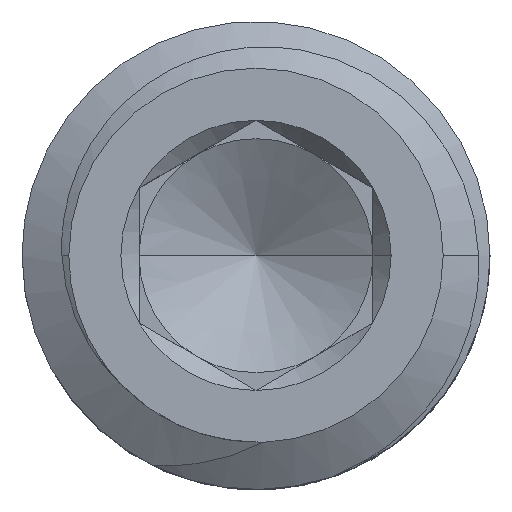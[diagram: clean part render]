
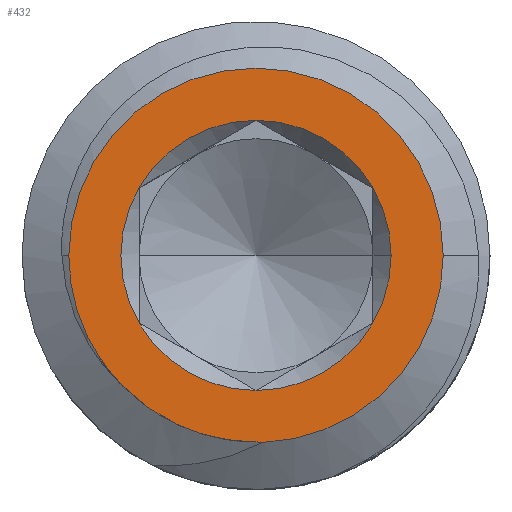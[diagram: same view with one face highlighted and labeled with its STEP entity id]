
A CAD part, top view. The second image highlights one B-rep face of the part: STEP entity #432.
In plain terms, the highlighted planar face has unit normal (0, 0, 1).
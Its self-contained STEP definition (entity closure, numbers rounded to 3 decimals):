
#36 = CIRCLE ( 'NONE', #2354, 3.2 ) ;
#42 = CIRCLE ( 'NONE', #2288, 2.309 ) ;
#48 = CIRCLE ( 'NONE', #2331, 3.2 ) ;
#49 = CIRCLE ( 'NONE', #2302, 2.309 ) ;
#51 = CIRCLE ( 'NONE', #2299, 2.309 ) ;
#53 = CIRCLE ( 'NONE', #2350, 2.309 ) ;
#56 = CIRCLE ( 'NONE', #2355, 2.309 ) ;
#59 = CIRCLE ( 'NONE', #2294, 2.309 ) ;
#74 = CIRCLE ( 'NONE', #2305, 2.309 ) ;
#81 = ORIENTED_EDGE ( 'NONE', *, *, #2264, .T. ) ;
#92 = ORIENTED_EDGE ( 'NONE', *, *, #2257, .F. ) ;
#100 = ORIENTED_EDGE ( 'NONE', *, *, #2237, .F. ) ;
#134 = ORIENTED_EDGE ( 'NONE', *, *, #2254, .T. ) ;
#153 = ORIENTED_EDGE ( 'NONE', *, *, #2263, .F. ) ;
#167 = ORIENTED_EDGE ( 'NONE', *, *, #2265, .F. ) ;
#168 = ORIENTED_EDGE ( 'NONE', *, *, #2220, .F. ) ;
#170 = ORIENTED_EDGE ( 'NONE', *, *, #2346, .F. ) ;
#174 = ORIENTED_EDGE ( 'NONE', *, *, #2261, .F. ) ;
#200 = FACE_OUTER_BOUND ( 'NONE', #424, .T. ) ;
#302 = CIRCLE ( 'NONE', #2280, 3.2 ) ;
#385 = FACE_BOUND ( 'NONE', #431, .T. ) ;
#394 = ORIENTED_EDGE ( 'NONE', *, *, #2251, .F. ) ;
#417 = ORIENTED_EDGE ( 'NONE', *, *, #2260, .F. ) ;
#424 = EDGE_LOOP ( 'NONE', ( #81, #134, #167, #168, #170, #528 ) ) ;
#431 = EDGE_LOOP ( 'NONE', ( #92, #497, #417, #100, #174, #153, #394 ) ) ;
#432 = ADVANCED_FACE ( 'NONE', ( #385, #200 ), #1720, .T. ) ;
#497 = ORIENTED_EDGE ( 'NONE', *, *, #2311, .F. ) ;
#528 = ORIENTED_EDGE ( 'NONE', *, *, #2249, .T. ) ;
#651 = CARTESIAN_POINT ( 'NONE',  ( 0., -2.309, 5. ) ) ;
#653 = CARTESIAN_POINT ( 'NONE',  ( -2.254, -2.254, 5. ) ) ;
#654 = CARTESIAN_POINT ( 'NONE',  ( -2.343, -2.179, 5. ) ) ;
#661 = CARTESIAN_POINT ( 'NONE',  ( 2.309, 0., 5. ) ) ;
#663 = CARTESIAN_POINT ( 'NONE',  ( 2., -1.155, 5. ) ) ;
#740 = CARTESIAN_POINT ( 'NONE',  ( 0.116, -3.198, 5. ) ) ;
#745 = CARTESIAN_POINT ( 'NONE',  ( -3.2, 0., 5. ) ) ;
#746 = CARTESIAN_POINT ( 'NONE',  ( 3.2, 0., 5. ) ) ;
#751 = CARTESIAN_POINT ( 'NONE',  ( 0., 2.309, 5. ) ) ;
#752 = CARTESIAN_POINT ( 'NONE',  ( 0., -3.188, 5. ) ) ;
#761 = CARTESIAN_POINT ( 'NONE',  ( -2., -1.155, 5. ) ) ;
#928 = DIRECTION ( 'NONE',  ( 1., 0., 0. ) ) ;
#937 = DIRECTION ( 'NONE',  ( 0., 0., 1. ) ) ;
#1111 = CARTESIAN_POINT ( 'NONE',  ( 0., 0., 5. ) ) ;
#1388 = CARTESIAN_POINT ( 'NONE',  ( 2., 1.155, 5. ) ) ;
#1396 = CARTESIAN_POINT ( 'NONE',  ( -2., 1.155, 5. ) ) ;
#1463 = DIRECTION ( 'NONE',  ( -1., 0., 0. ) ) ;
#1466 = DIRECTION ( 'NONE',  ( 0., 0., -1. ) ) ;
#1626 = VERTEX_POINT ( 'NONE', #661 ) ;
#1653 = VERTEX_POINT ( 'NONE', #651 ) ;
#1655 = VERTEX_POINT ( 'NONE', #663 ) ;
#1657 = VERTEX_POINT ( 'NONE', #653 ) ;
#1663 = VERTEX_POINT ( 'NONE', #654 ) ;
#1668 = VERTEX_POINT ( 'NONE', #752 ) ;
#1672 = VERTEX_POINT ( 'NONE', #761 ) ;
#1686 = VERTEX_POINT ( 'NONE', #751 ) ;
#1720 = PLANE ( 'NONE',  #2273 ) ;
#1924 = VERTEX_POINT ( 'NONE', #1388 ) ;
#1965 = VERTEX_POINT ( 'NONE', #1396 ) ;
#1972 = VERTEX_POINT ( 'NONE', #740 ) ;
#2034 = CARTESIAN_POINT ( 'NONE',  ( 0., 0., 5. ) ) ;
#2097 = VERTEX_POINT ( 'NONE', #746 ) ;
#2104 = VERTEX_POINT ( 'NONE', #745 ) ;
#2220 = EDGE_CURVE ( 'NONE', #2104, #2097, #302, .T. ) ;
#2237 = EDGE_CURVE ( 'NONE', #1653, #1655, #74, .T. ) ;
#2249 = EDGE_CURVE ( 'NONE', #1663, #1657, #2691, .T. ) ;
#2251 = EDGE_CURVE ( 'NONE', #1686, #1965, #59, .T. ) ;
#2254 = EDGE_CURVE ( 'NONE', #1668, #1972, #2696, .T. ) ;
#2257 = EDGE_CURVE ( 'NONE', #1924, #1686, #56, .T. ) ;
#2260 = EDGE_CURVE ( 'NONE', #1655, #1626, #53, .T. ) ;
#2261 = EDGE_CURVE ( 'NONE', #1672, #1653, #51, .T. ) ;
#2263 = EDGE_CURVE ( 'NONE', #1965, #1672, #49, .T. ) ;
#2264 = EDGE_CURVE ( 'NONE', #1657, #1668, #2681, .T. ) ;
#2265 = EDGE_CURVE ( 'NONE', #2097, #1972, #48, .T. ) ;
#2273 = AXIS2_PLACEMENT_3D ( 'NONE', #2034, #937, #928 ) ;
#2280 = AXIS2_PLACEMENT_3D ( 'NONE', #1111, #1466, #1463 ) ;
#2288 = AXIS2_PLACEMENT_3D ( 'NONE', #2453, #2445, #2444 ) ;
#2294 = AXIS2_PLACEMENT_3D ( 'NONE', #2544, #2536, #2535 ) ;
#2299 = AXIS2_PLACEMENT_3D ( 'NONE', #2495, #2494, #2493 ) ;
#2302 = AXIS2_PLACEMENT_3D ( 'NONE', #2478, #2476, #2475 ) ;
#2305 = AXIS2_PLACEMENT_3D ( 'NONE', #2620, #2618, #2617 ) ;
#2311 = EDGE_CURVE ( 'NONE', #1626, #1924, #42, .T. ) ;
#2331 = AXIS2_PLACEMENT_3D ( 'NONE', #2467, #2466, #2465 ) ;
#2346 = EDGE_CURVE ( 'NONE', #1663, #2104, #36, .T. ) ;
#2350 = AXIS2_PLACEMENT_3D ( 'NONE', #2508, #2497, #2496 ) ;
#2354 = AXIS2_PLACEMENT_3D ( 'NONE', #2442, #2399, #2398 ) ;
#2355 = AXIS2_PLACEMENT_3D ( 'NONE', #2509, #2507, #2506 ) ;
#2398 = DIRECTION ( 'NONE',  ( -1., 0., 0. ) ) ;
#2399 = DIRECTION ( 'NONE',  ( 0., 0., -1. ) ) ;
#2442 = CARTESIAN_POINT ( 'NONE',  ( 0., 0., 5. ) ) ;
#2444 = DIRECTION ( 'NONE',  ( 1., 0., 0. ) ) ;
#2445 = DIRECTION ( 'NONE',  ( 0., 0., 1. ) ) ;
#2453 = CARTESIAN_POINT ( 'NONE',  ( 0., 0., 5. ) ) ;
#2465 = DIRECTION ( 'NONE',  ( -1., 0., 0. ) ) ;
#2466 = DIRECTION ( 'NONE',  ( 0., 0., -1. ) ) ;
#2467 = CARTESIAN_POINT ( 'NONE',  ( 0., 0., 5. ) ) ;
#2468 = CARTESIAN_POINT ( 'NONE',  ( 0., -3.188, 5. ) ) ;
#2469 = CARTESIAN_POINT ( 'NONE',  ( -0.21, -3.188, 5. ) ) ;
#2470 = CARTESIAN_POINT ( 'NONE',  ( -0.416, -3.168, 5. ) ) ;
#2471 = CARTESIAN_POINT ( 'NONE',  ( -0.821, -3.087, 5. ) ) ;
#2472 = CARTESIAN_POINT ( 'NONE',  ( -1.022, -3.027, 5. ) ) ;
#2473 = CARTESIAN_POINT ( 'NONE',  ( -1.603, -2.788, 5. ) ) ;
#2474 = CARTESIAN_POINT ( 'NONE',  ( -1.958, -2.551, 5. ) ) ;
#2475 = DIRECTION ( 'NONE',  ( 1., 0., 0. ) ) ;
#2476 = DIRECTION ( 'NONE',  ( 0., 0., 1. ) ) ;
#2477 = CARTESIAN_POINT ( 'NONE',  ( -2.254, -2.254, 5. ) ) ;
#2478 = CARTESIAN_POINT ( 'NONE',  ( 0., 0., 5. ) ) ;
#2493 = DIRECTION ( 'NONE',  ( 1., 0., 0. ) ) ;
#2494 = DIRECTION ( 'NONE',  ( 0., 0., 1. ) ) ;
#2495 = CARTESIAN_POINT ( 'NONE',  ( 0., 0., 5. ) ) ;
#2496 = DIRECTION ( 'NONE',  ( 1., 0., 0. ) ) ;
#2497 = DIRECTION ( 'NONE',  ( 0., 0., 1. ) ) ;
#2506 = DIRECTION ( 'NONE',  ( 1., 0., 0. ) ) ;
#2507 = DIRECTION ( 'NONE',  ( 0., 0., 1. ) ) ;
#2508 = CARTESIAN_POINT ( 'NONE',  ( 0., 0., 5. ) ) ;
#2509 = CARTESIAN_POINT ( 'NONE',  ( 0., 0., 5. ) ) ;
#2519 = CARTESIAN_POINT ( 'NONE',  ( 0.116, -3.198, 5. ) ) ;
#2520 = CARTESIAN_POINT ( 'NONE',  ( 0.077, -3.195, 5. ) ) ;
#2521 = CARTESIAN_POINT ( 'NONE',  ( 0.039, -3.192, 5. ) ) ;
#2526 = CARTESIAN_POINT ( 'NONE',  ( 0., -3.188, 5. ) ) ;
#2535 = DIRECTION ( 'NONE',  ( 1., 0., 0. ) ) ;
#2536 = DIRECTION ( 'NONE',  ( 0., 0., 1. ) ) ;
#2541 = CARTESIAN_POINT ( 'NONE',  ( -2.254, -2.254, 5. ) ) ;
#2542 = CARTESIAN_POINT ( 'NONE',  ( -2.284, -2.23, 5. ) ) ;
#2543 = CARTESIAN_POINT ( 'NONE',  ( -2.314, -2.205, 5. ) ) ;
#2544 = CARTESIAN_POINT ( 'NONE',  ( 0., 0., 5. ) ) ;
#2553 = CARTESIAN_POINT ( 'NONE',  ( -2.343, -2.179, 5. ) ) ;
#2617 = DIRECTION ( 'NONE',  ( 1., 0., 0. ) ) ;
#2618 = DIRECTION ( 'NONE',  ( 0., 0., 1. ) ) ;
#2620 = CARTESIAN_POINT ( 'NONE',  ( 0., 0., 5. ) ) ;
#2681 = B_SPLINE_CURVE_WITH_KNOTS ( 'NONE', 3,
 ( #2477, #2474, #2473, #2472, #2471, #2470, #2469, #2468 ),
 .UNSPECIFIED., .F., .F.,
 ( 4, 2, 2, 4 ),
 ( 0., 0.001, 0.002, 0.003 ),
 .UNSPECIFIED. ) ;
#2691 = B_SPLINE_CURVE_WITH_KNOTS ( 'NONE', 3,
 ( #2553, #2543, #2542, #2541 ),
 .UNSPECIFIED., .F., .F.,
 ( 4, 4 ),
 ( 0.002, 0.002 ),
 .UNSPECIFIED. ) ;
#2696 = B_SPLINE_CURVE_WITH_KNOTS ( 'NONE', 3,
 ( #2526, #2521, #2520, #2519 ),
 .UNSPECIFIED., .F., .F.,
 ( 4, 4 ),
 ( 0., 0. ),
 .UNSPECIFIED. ) ;
